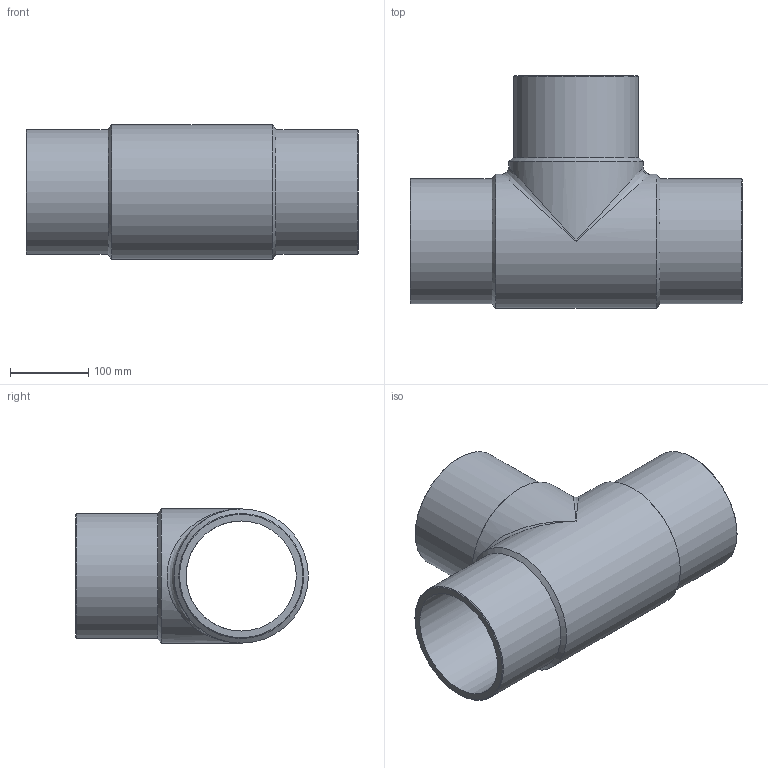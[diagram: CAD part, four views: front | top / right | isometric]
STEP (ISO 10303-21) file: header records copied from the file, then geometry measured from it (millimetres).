
FILE_DESCRIPTION(/* description */ ('Unknown'),/* implementation_level */ '2;1');
FILE_NAME(/* name */ 'TP160B',/* time_stamp */ '2021-08-13T14:47:47+02:00',/* author */ ('Unknown'),/* organization */ ('Unknown'),/* preprocessor_version */ 'ST-DEVELOPER v16.7',/* originating_system */ 'Solid Edge',/* authorisation */ 'Unknown');
FILE_SCHEMA (('AUTOMOTIVE_DESIGN {1 0 10303 214 3 1 1}'));
Length unit declared in the file: millimetre
Products named in the file (1): TP160B
Bounding box: 425 x 298 x 172 mm (x, y, z)
Volume: 3088649.5 mm3; surface area: 531809.8 mm2
Topology: 1 solids, 1 shells, 18 faces, 44 edges, 23 vertices
Faces by surface type: cylinder 7, cone 6, plane 3, bspline 2
Full cylindrical faces by diameter (mm): 141 x2, 160 x3, 172 x2
Entity records: 528 total; most frequent: CARTESIAN_POINT 171, DIRECTION 76, ORIENTED_EDGE 42, AXIS2_PLACEMENT_3D 38, EDGE_LOOP 36, FACE_BOUND 36, EDGE_CURVE 21, VERTEX_POINT 19
